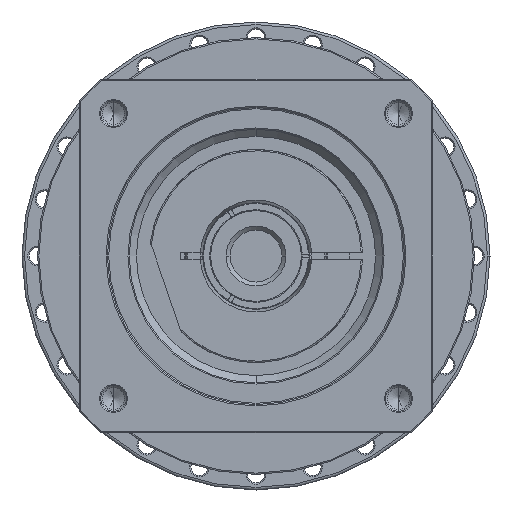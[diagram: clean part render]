
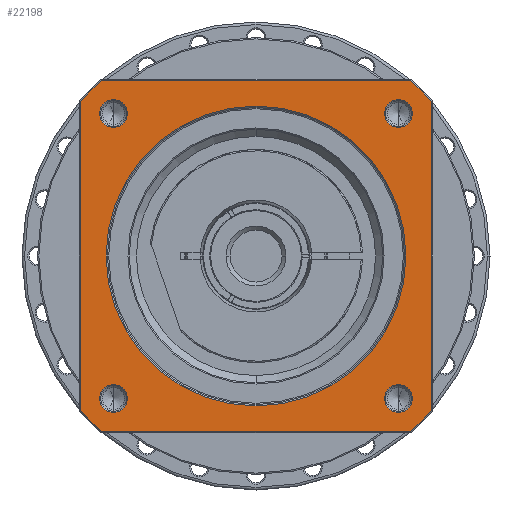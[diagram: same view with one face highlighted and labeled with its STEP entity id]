
A CAD part, left-side view. The second image highlights one B-rep face of the part: STEP entity #22198.
In plain terms, the highlighted planar face has unit normal (-1, 0, 0) as drawn and (0, 0, 1) by its records, which use the part's own axes.
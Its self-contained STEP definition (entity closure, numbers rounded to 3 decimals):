
#20929=DIRECTION('',(1.,0.,0.));
#20930=VECTOR('',#20929,119.059);
#20931=CARTESIAN_POINT('',(-59.529,-67.5,41.));
#20932=LINE('',#20931,#20930);
#20942=CARTESIAN_POINT('',(0.,0.,
41.));
#20943=DIRECTION('',(0.,0.,-1.));
#20944=DIRECTION('',(0.,-1.,0.));
#20945=AXIS2_PLACEMENT_3D('',#20942,#20943,#20944);
#20947=CARTESIAN_POINT('',(0.,0.,
41.));
#20948=DIRECTION('',(0.,0.,-1.));
#20949=DIRECTION('',(0.,1.,0.));
#20950=AXIS2_PLACEMENT_3D('',#20947,#20948,#20949);
#20952=CARTESIAN_POINT('',(0.,0.,41.));
#20953=DIRECTION('',(0.,0.,1.));
#20954=DIRECTION('',(-0.75,-0.661,0.));
#20955=AXIS2_PLACEMENT_3D('',#20952,#20953,#20954);
#20967=DIRECTION('',(0.,-1.,0.));
#20968=VECTOR('',#20967,119.059);
#20969=CARTESIAN_POINT('',(-67.5,59.529,41.));
#20970=LINE('',#20969,#20968);
#20980=CARTESIAN_POINT('',(0.,0.,41.));
#20981=DIRECTION('',(0.,0.,1.));
#20982=DIRECTION('',(-0.661,0.75,0.));
#20983=AXIS2_PLACEMENT_3D('',#20980,#20981,#20982);
#21008=DIRECTION('',(-1.,0.,0.));
#21009=VECTOR('',#21008,119.059);
#21010=CARTESIAN_POINT('',(59.529,67.5,41.));
#21011=LINE('',#21010,#21009);
#21016=CARTESIAN_POINT('',(0.,0.,41.));
#21017=DIRECTION('',(0.,0.,1.));
#21018=DIRECTION('',(0.75,0.661,0.));
#21019=AXIS2_PLACEMENT_3D('',#21016,#21017,#21018);
#21031=DIRECTION('',(0.,1.,0.));
#21032=VECTOR('',#21031,119.059);
#21033=CARTESIAN_POINT('',(67.5,-59.529,41.));
#21034=LINE('',#21033,#21032);
#21136=CARTESIAN_POINT('',(0.,0.,41.));
#21137=DIRECTION('',(0.,0.,1.));
#21138=DIRECTION('',(0.661,-0.75,0.));
#21139=AXIS2_PLACEMENT_3D('',#21136,#21137,#21138);
#21415=CARTESIAN_POINT('',(-54.801,54.801,41.));
#21416=DIRECTION('',(0.,0.,1.));
#21417=DIRECTION('',(-1.,0.,0.));
#21418=AXIS2_PLACEMENT_3D('',#21415,#21416,#21417);
#21433=CARTESIAN_POINT('',(-54.801,54.801,41.));
#21434=DIRECTION('',(0.,0.,1.));
#21435=DIRECTION('',(1.,0.,0.));
#21436=AXIS2_PLACEMENT_3D('',#21433,#21434,#21435);
#21469=CARTESIAN_POINT('',(54.801,54.801,41.));
#21470=DIRECTION('',(0.,0.,1.));
#21471=DIRECTION('',(-1.,0.,0.));
#21472=AXIS2_PLACEMENT_3D('',#21469,#21470,#21471);
#21487=CARTESIAN_POINT('',(54.801,54.801,41.));
#21488=DIRECTION('',(0.,0.,1.));
#21489=DIRECTION('',(1.,0.,0.));
#21490=AXIS2_PLACEMENT_3D('',#21487,#21488,#21489);
#21523=CARTESIAN_POINT('',(54.801,-54.801,41.));
#21524=DIRECTION('',(0.,0.,1.));
#21525=DIRECTION('',(-1.,0.,0.));
#21526=AXIS2_PLACEMENT_3D('',#21523,#21524,#21525);
#21541=CARTESIAN_POINT('',(54.801,-54.801,41.));
#21542=DIRECTION('',(0.,0.,1.));
#21543=DIRECTION('',(1.,0.,0.));
#21544=AXIS2_PLACEMENT_3D('',#21541,#21542,#21543);
#21577=CARTESIAN_POINT('',(-54.801,-54.801,41.));
#21578=DIRECTION('',(0.,0.,1.));
#21579=DIRECTION('',(-1.,0.,0.));
#21580=AXIS2_PLACEMENT_3D('',#21577,#21578,#21579);
#21595=CARTESIAN_POINT('',(-54.801,-54.801,41.));
#21596=DIRECTION('',(0.,0.,1.));
#21597=DIRECTION('',(1.,0.,0.));
#21598=AXIS2_PLACEMENT_3D('',#21595,#21596,#21597);
#21639=CARTESIAN_POINT('',(67.5,-59.529,41.));
#21640=CARTESIAN_POINT('',(67.5,59.529,41.));
#21641=VERTEX_POINT('',#21639);
#21642=VERTEX_POINT('',#21640);
#21647=CARTESIAN_POINT('',(59.529,-67.5,41.));
#21648=VERTEX_POINT('',#21647);
#21651=CARTESIAN_POINT('',(-59.529,-67.5,41.));
#21652=VERTEX_POINT('',#21651);
#21655=CARTESIAN_POINT('',(-67.5,-59.529,41.));
#21656=VERTEX_POINT('',#21655);
#21659=CARTESIAN_POINT('',(-67.5,59.529,41.));
#21660=VERTEX_POINT('',#21659);
#21663=CARTESIAN_POINT('',(-59.529,67.5,41.));
#21664=VERTEX_POINT('',#21663);
#21667=CARTESIAN_POINT('',(59.529,67.5,41.));
#21668=VERTEX_POINT('',#21667);
#21717=CARTESIAN_POINT('',(-60.151,54.801,41.));
#21718=CARTESIAN_POINT('',(-49.451,54.801,41.));
#21719=VERTEX_POINT('',#21717);
#21720=VERTEX_POINT('',#21718);
#21751=CARTESIAN_POINT('',(60.151,54.801,41.));
#21752=CARTESIAN_POINT('',(49.451,54.801,41.));
#21753=VERTEX_POINT('',#21751);
#21754=VERTEX_POINT('',#21752);
#21759=CARTESIAN_POINT('',(60.151,-54.801,41.));
#21760=CARTESIAN_POINT('',(49.451,-54.801,41.));
#21761=VERTEX_POINT('',#21759);
#21762=VERTEX_POINT('',#21760);
#21767=CARTESIAN_POINT('',(-49.451,-54.801,41.));
#21768=CARTESIAN_POINT('',(-60.151,-54.801,41.));
#21769=VERTEX_POINT('',#21767);
#21770=VERTEX_POINT('',#21768);
#21775=CARTESIAN_POINT('',(0.,-57.65,41.));
#21776=CARTESIAN_POINT('',(0.,57.65,
41.));
#21777=VERTEX_POINT('',#21775);
#21778=VERTEX_POINT('',#21776);
#22146=CARTESIAN_POINT('',(0.,0.,41.));
#22147=DIRECTION('',(0.,0.,1.));
#22148=DIRECTION('',(1.,0.,0.));
#22149=AXIS2_PLACEMENT_3D('',#22146,#22147,#22148);
#22150=PLANE('',#22149);
#22152=ORIENTED_EDGE('',*,*,#22151,.F.);
#22154=ORIENTED_EDGE('',*,*,#22153,.F.);
#22156=ORIENTED_EDGE('',*,*,#22155,.F.);
#22158=ORIENTED_EDGE('',*,*,#22157,.F.);
#22160=ORIENTED_EDGE('',*,*,#22159,.F.);
#22162=ORIENTED_EDGE('',*,*,#22161,.F.);
#22164=ORIENTED_EDGE('',*,*,#22163,.F.);
#22165=ORIENTED_EDGE('',*,*,#22136,.F.);
#22166=EDGE_LOOP('',(#22152,#22154,#22156,#22158,#22160,#22162,#22164,#22165));
#22167=FACE_OUTER_BOUND('',#22166,.F.);
#22169=ORIENTED_EDGE('',*,*,#22168,.F.);
#22171=ORIENTED_EDGE('',*,*,#22170,.F.);
#22172=EDGE_LOOP('',(#22169,#22171));
#22173=FACE_BOUND('',#22172,.F.);
#22175=ORIENTED_EDGE('',*,*,#22174,.T.);
#22177=ORIENTED_EDGE('',*,*,#22176,.T.);
#22178=EDGE_LOOP('',(#22175,#22177));
#22179=FACE_BOUND('',#22178,.F.);
#22181=ORIENTED_EDGE('',*,*,#22180,.T.);
#22183=ORIENTED_EDGE('',*,*,#22182,.T.);
#22184=EDGE_LOOP('',(#22181,#22183));
#22185=FACE_BOUND('',#22184,.F.);
#22187=ORIENTED_EDGE('',*,*,#22186,.T.);
#22189=ORIENTED_EDGE('',*,*,#22188,.T.);
#22190=EDGE_LOOP('',(#22187,#22189));
#22191=FACE_BOUND('',#22190,.F.);
#22193=ORIENTED_EDGE('',*,*,#22192,.T.);
#22195=ORIENTED_EDGE('',*,*,#22194,.T.);
#22196=EDGE_LOOP('',(#22193,#22195));
#22197=FACE_BOUND('',#22196,.F.);
#22198=ADVANCED_FACE('',(#22167,#22173,#22179,#22185,#22191,#22197),#22150,.T.);
#20946=CIRCLE('',#20945,57.65);
#20951=CIRCLE('',#20950,57.65);
#20956=CIRCLE('',#20955,90.);
#20984=CIRCLE('',#20983,90.);
#21020=CIRCLE('',#21019,90.);
#21140=CIRCLE('',#21139,90.);
#21419=CIRCLE('',#21418,5.35);
#21437=CIRCLE('',#21436,5.35);
#21473=CIRCLE('',#21472,5.35);
#21491=CIRCLE('',#21490,5.35);
#21527=CIRCLE('',#21526,5.35);
#21545=CIRCLE('',#21544,5.35);
#21581=CIRCLE('',#21580,5.35);
#21599=CIRCLE('',#21598,5.35);
#22136=EDGE_CURVE('',#21652,#21648,#20932,.T.);
#22151=EDGE_CURVE('',#21656,#21652,#20956,.T.);
#22153=EDGE_CURVE('',#21660,#21656,#20970,.T.);
#22155=EDGE_CURVE('',#21664,#21660,#20984,.T.);
#22157=EDGE_CURVE('',#21668,#21664,#21011,.T.);
#22159=EDGE_CURVE('',#21642,#21668,#21020,.T.);
#22161=EDGE_CURVE('',#21641,#21642,#21034,.T.);
#22163=EDGE_CURVE('',#21648,#21641,#21140,.T.);
#22168=EDGE_CURVE('',#21777,#21778,#20946,.T.);
#22170=EDGE_CURVE('',#21778,#21777,#20951,.T.);
#22174=EDGE_CURVE('',#21719,#21720,#21419,.T.);
#22176=EDGE_CURVE('',#21720,#21719,#21437,.T.);
#22180=EDGE_CURVE('',#21754,#21753,#21473,.T.);
#22182=EDGE_CURVE('',#21753,#21754,#21491,.T.);
#22186=EDGE_CURVE('',#21762,#21761,#21527,.T.);
#22188=EDGE_CURVE('',#21761,#21762,#21545,.T.);
#22192=EDGE_CURVE('',#21770,#21769,#21581,.T.);
#22194=EDGE_CURVE('',#21769,#21770,#21599,.T.);
